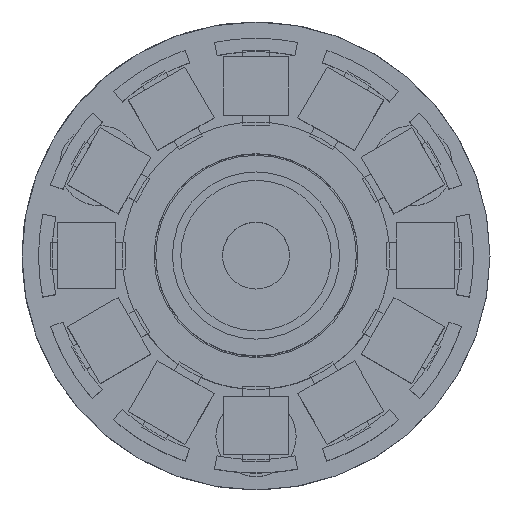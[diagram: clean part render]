
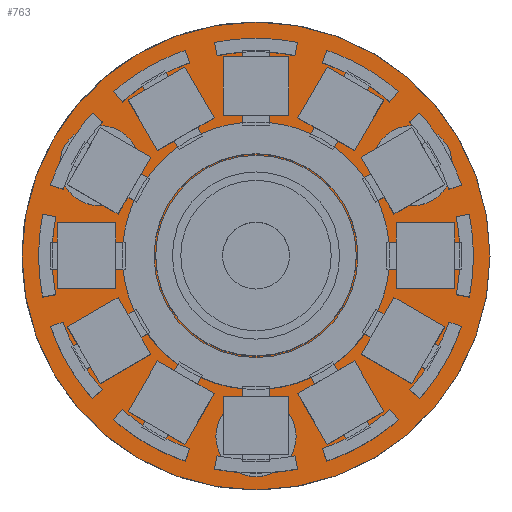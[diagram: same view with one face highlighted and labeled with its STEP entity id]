
A CAD part, top view. The second image highlights one B-rep face of the part: STEP entity #763.
In plain terms, the highlighted planar face has unit normal (0, 0, 1).
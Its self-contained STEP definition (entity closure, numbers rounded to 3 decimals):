
#122 = VERTEX_POINT('',#123);
#123 = CARTESIAN_POINT('',(7.,0.,0.6));
#130 = CYLINDRICAL_SURFACE('',#131,7.);
#131 = AXIS2_PLACEMENT_3D('',#132,#133,#134);
#132 = CARTESIAN_POINT('',(0.,0.,0.));
#133 = DIRECTION('',(0.,0.,1.));
#134 = DIRECTION('',(1.,0.,-0.));
#149 = EDGE_CURVE('',#122,#122,#150,.T.);
#150 = SURFACE_CURVE('',#151,(#156,#163),.PCURVE_S1.);
#151 = CIRCLE('',#152,7.);
#152 = AXIS2_PLACEMENT_3D('',#153,#154,#155);
#153 = CARTESIAN_POINT('',(0.,0.,0.6));
#154 = DIRECTION('',(0.,0.,1.));
#155 = DIRECTION('',(1.,0.,-0.));
#156 = PCURVE('',#130,#157);
#157 = DEFINITIONAL_REPRESENTATION('',(#158),#162);
#158 = LINE('',#159,#160);
#159 = CARTESIAN_POINT('',(0.,0.6));
#160 = VECTOR('',#161,1.);
#161 = DIRECTION('',(1.,0.));
#162 = ( GEOMETRIC_REPRESENTATION_CONTEXT(2) 
PARAMETRIC_REPRESENTATION_CONTEXT() REPRESENTATION_CONTEXT('2D SPACE',''
  ) );
#163 = PCURVE('',#164,#169);
#164 = PLANE('',#165);
#165 = AXIS2_PLACEMENT_3D('',#166,#167,#168);
#166 = CARTESIAN_POINT('',(0.,0.,0.6));
#167 = DIRECTION('',(0.,0.,1.));
#168 = DIRECTION('',(1.,0.,-0.));
#169 = DEFINITIONAL_REPRESENTATION('',(#170),#174);
#170 = CIRCLE('',#171,7.);
#171 = AXIS2_PLACEMENT_2D('',#172,#173);
#172 = CARTESIAN_POINT('',(0.,0.));
#173 = DIRECTION('',(1.,0.));
#174 = ( GEOMETRIC_REPRESENTATION_CONTEXT(2) 
PARAMETRIC_REPRESENTATION_CONTEXT() REPRESENTATION_CONTEXT('2D SPACE',''
  ) );
#547 = CYLINDRICAL_SURFACE('',#548,0.45);
#548 = AXIS2_PLACEMENT_3D('',#549,#550,#551);
#549 = CARTESIAN_POINT('',(0.,4.7,-0.01));
#550 = DIRECTION('',(0.,0.,1.));
#551 = DIRECTION('',(1.,0.,-0.));
#763 = ADVANCED_FACE('',(#764,#767,#798,#829,#860,#886),#164,.T.);
#764 = FACE_BOUND('',#765,.T.);
#765 = EDGE_LOOP('',(#766));
#766 = ORIENTED_EDGE('',*,*,#149,.T.);
#767 = FACE_BOUND('',#768,.T.);
#768 = EDGE_LOOP('',(#769));
#769 = ORIENTED_EDGE('',*,*,#770,.F.);
#770 = EDGE_CURVE('',#771,#771,#773,.T.);
#771 = VERTEX_POINT('',#772);
#772 = CARTESIAN_POINT('',(1.2,-5.4,0.6));
#773 = SURFACE_CURVE('',#774,(#779,#786),.PCURVE_S1.);
#774 = CIRCLE('',#775,1.2);
#775 = AXIS2_PLACEMENT_3D('',#776,#777,#778);
#776 = CARTESIAN_POINT('',(0.,-5.4,0.6));
#777 = DIRECTION('',(0.,0.,1.));
#778 = DIRECTION('',(1.,0.,-0.));
#779 = PCURVE('',#164,#780);
#780 = DEFINITIONAL_REPRESENTATION('',(#781),#785);
#781 = CIRCLE('',#782,1.2);
#782 = AXIS2_PLACEMENT_2D('',#783,#784);
#783 = CARTESIAN_POINT('',(0.,-5.4));
#784 = DIRECTION('',(1.,0.));
#785 = ( GEOMETRIC_REPRESENTATION_CONTEXT(2) 
PARAMETRIC_REPRESENTATION_CONTEXT() REPRESENTATION_CONTEXT('2D SPACE',''
  ) );
#786 = PCURVE('',#787,#792);
#787 = CYLINDRICAL_SURFACE('',#788,1.2);
#788 = AXIS2_PLACEMENT_3D('',#789,#790,#791);
#789 = CARTESIAN_POINT('',(0.,-5.4,0.6));
#790 = DIRECTION('',(0.,0.,1.));
#791 = DIRECTION('',(1.,0.,-0.));
#792 = DEFINITIONAL_REPRESENTATION('',(#793),#797);
#793 = LINE('',#794,#795);
#794 = CARTESIAN_POINT('',(0.,0.));
#795 = VECTOR('',#796,1.);
#796 = DIRECTION('',(1.,0.));
#797 = ( GEOMETRIC_REPRESENTATION_CONTEXT(2) 
PARAMETRIC_REPRESENTATION_CONTEXT() REPRESENTATION_CONTEXT('2D SPACE',''
  ) );
#798 = FACE_BOUND('',#799,.T.);
#799 = EDGE_LOOP('',(#800));
#800 = ORIENTED_EDGE('',*,*,#801,.F.);
#801 = EDGE_CURVE('',#802,#802,#804,.T.);
#802 = VERTEX_POINT('',#803);
#803 = CARTESIAN_POINT('',(-3.477,2.7,0.6));
#804 = SURFACE_CURVE('',#805,(#810,#817),.PCURVE_S1.);
#805 = CIRCLE('',#806,1.2);
#806 = AXIS2_PLACEMENT_3D('',#807,#808,#809);
#807 = CARTESIAN_POINT('',(-4.677,2.7,0.6));
#808 = DIRECTION('',(0.,0.,1.));
#809 = DIRECTION('',(1.,0.,-0.));
#810 = PCURVE('',#164,#811);
#811 = DEFINITIONAL_REPRESENTATION('',(#812),#816);
#812 = CIRCLE('',#813,1.2);
#813 = AXIS2_PLACEMENT_2D('',#814,#815);
#814 = CARTESIAN_POINT('',(-4.677,2.7));
#815 = DIRECTION('',(1.,0.));
#816 = ( GEOMETRIC_REPRESENTATION_CONTEXT(2) 
PARAMETRIC_REPRESENTATION_CONTEXT() REPRESENTATION_CONTEXT('2D SPACE',''
  ) );
#817 = PCURVE('',#818,#823);
#818 = CYLINDRICAL_SURFACE('',#819,1.2);
#819 = AXIS2_PLACEMENT_3D('',#820,#821,#822);
#820 = CARTESIAN_POINT('',(-4.677,2.7,0.6));
#821 = DIRECTION('',(0.,0.,1.));
#822 = DIRECTION('',(1.,0.,-0.));
#823 = DEFINITIONAL_REPRESENTATION('',(#824),#828);
#824 = LINE('',#825,#826);
#825 = CARTESIAN_POINT('',(0.,0.));
#826 = VECTOR('',#827,1.);
#827 = DIRECTION('',(1.,0.));
#828 = ( GEOMETRIC_REPRESENTATION_CONTEXT(2) 
PARAMETRIC_REPRESENTATION_CONTEXT() REPRESENTATION_CONTEXT('2D SPACE',''
  ) );
#829 = FACE_BOUND('',#830,.T.);
#830 = EDGE_LOOP('',(#831));
#831 = ORIENTED_EDGE('',*,*,#832,.F.);
#832 = EDGE_CURVE('',#833,#833,#835,.T.);
#833 = VERTEX_POINT('',#834);
#834 = CARTESIAN_POINT('',(3.,0.,0.6));
#835 = SURFACE_CURVE('',#836,(#841,#848),.PCURVE_S1.);
#836 = CIRCLE('',#837,3.);
#837 = AXIS2_PLACEMENT_3D('',#838,#839,#840);
#838 = CARTESIAN_POINT('',(0.,0.,0.6));
#839 = DIRECTION('',(0.,0.,1.));
#840 = DIRECTION('',(1.,0.,-0.));
#841 = PCURVE('',#164,#842);
#842 = DEFINITIONAL_REPRESENTATION('',(#843),#847);
#843 = CIRCLE('',#844,3.);
#844 = AXIS2_PLACEMENT_2D('',#845,#846);
#845 = CARTESIAN_POINT('',(0.,0.));
#846 = DIRECTION('',(1.,0.));
#847 = ( GEOMETRIC_REPRESENTATION_CONTEXT(2) 
PARAMETRIC_REPRESENTATION_CONTEXT() REPRESENTATION_CONTEXT('2D SPACE',''
  ) );
#848 = PCURVE('',#849,#854);
#849 = CYLINDRICAL_SURFACE('',#850,3.);
#850 = AXIS2_PLACEMENT_3D('',#851,#852,#853);
#851 = CARTESIAN_POINT('',(0.,0.,0.6));
#852 = DIRECTION('',(0.,0.,1.));
#853 = DIRECTION('',(1.,0.,-0.));
#854 = DEFINITIONAL_REPRESENTATION('',(#855),#859);
#855 = LINE('',#856,#857);
#856 = CARTESIAN_POINT('',(0.,0.));
#857 = VECTOR('',#858,1.);
#858 = DIRECTION('',(1.,0.));
#859 = ( GEOMETRIC_REPRESENTATION_CONTEXT(2) 
PARAMETRIC_REPRESENTATION_CONTEXT() REPRESENTATION_CONTEXT('2D SPACE',''
  ) );
#860 = FACE_BOUND('',#861,.T.);
#861 = EDGE_LOOP('',(#862));
#862 = ORIENTED_EDGE('',*,*,#863,.F.);
#863 = EDGE_CURVE('',#864,#864,#866,.T.);
#864 = VERTEX_POINT('',#865);
#865 = CARTESIAN_POINT('',(0.45,4.7,0.6));
#866 = SURFACE_CURVE('',#867,(#872,#879),.PCURVE_S1.);
#867 = CIRCLE('',#868,0.45);
#868 = AXIS2_PLACEMENT_3D('',#869,#870,#871);
#869 = CARTESIAN_POINT('',(0.,4.7,0.6));
#870 = DIRECTION('',(0.,0.,1.));
#871 = DIRECTION('',(1.,0.,-0.));
#872 = PCURVE('',#164,#873);
#873 = DEFINITIONAL_REPRESENTATION('',(#874),#878);
#874 = CIRCLE('',#875,0.45);
#875 = AXIS2_PLACEMENT_2D('',#876,#877);
#876 = CARTESIAN_POINT('',(0.,4.7));
#877 = DIRECTION('',(1.,0.));
#878 = ( GEOMETRIC_REPRESENTATION_CONTEXT(2) 
PARAMETRIC_REPRESENTATION_CONTEXT() REPRESENTATION_CONTEXT('2D SPACE',''
  ) );
#879 = PCURVE('',#547,#880);
#880 = DEFINITIONAL_REPRESENTATION('',(#881),#885);
#881 = LINE('',#882,#883);
#882 = CARTESIAN_POINT('',(0.,0.61));
#883 = VECTOR('',#884,1.);
#884 = DIRECTION('',(1.,0.));
#885 = ( GEOMETRIC_REPRESENTATION_CONTEXT(2) 
PARAMETRIC_REPRESENTATION_CONTEXT() REPRESENTATION_CONTEXT('2D SPACE',''
  ) );
#886 = FACE_BOUND('',#887,.T.);
#887 = EDGE_LOOP('',(#888));
#888 = ORIENTED_EDGE('',*,*,#889,.F.);
#889 = EDGE_CURVE('',#890,#890,#892,.T.);
#890 = VERTEX_POINT('',#891);
#891 = CARTESIAN_POINT('',(5.877,2.7,0.6));
#892 = SURFACE_CURVE('',#893,(#898,#905),.PCURVE_S1.);
#893 = CIRCLE('',#894,1.2);
#894 = AXIS2_PLACEMENT_3D('',#895,#896,#897);
#895 = CARTESIAN_POINT('',(4.677,2.7,0.6));
#896 = DIRECTION('',(0.,0.,1.));
#897 = DIRECTION('',(1.,0.,-0.));
#898 = PCURVE('',#164,#899);
#899 = DEFINITIONAL_REPRESENTATION('',(#900),#904);
#900 = CIRCLE('',#901,1.2);
#901 = AXIS2_PLACEMENT_2D('',#902,#903);
#902 = CARTESIAN_POINT('',(4.677,2.7));
#903 = DIRECTION('',(1.,0.));
#904 = ( GEOMETRIC_REPRESENTATION_CONTEXT(2) 
PARAMETRIC_REPRESENTATION_CONTEXT() REPRESENTATION_CONTEXT('2D SPACE',''
  ) );
#905 = PCURVE('',#906,#911);
#906 = CYLINDRICAL_SURFACE('',#907,1.2);
#907 = AXIS2_PLACEMENT_3D('',#908,#909,#910);
#908 = CARTESIAN_POINT('',(4.677,2.7,0.6));
#909 = DIRECTION('',(0.,0.,1.));
#910 = DIRECTION('',(1.,0.,-0.));
#911 = DEFINITIONAL_REPRESENTATION('',(#912),#916);
#912 = LINE('',#913,#914);
#913 = CARTESIAN_POINT('',(0.,0.));
#914 = VECTOR('',#915,1.);
#915 = DIRECTION('',(1.,0.));
#916 = ( GEOMETRIC_REPRESENTATION_CONTEXT(2) 
PARAMETRIC_REPRESENTATION_CONTEXT() REPRESENTATION_CONTEXT('2D SPACE',''
  ) );
